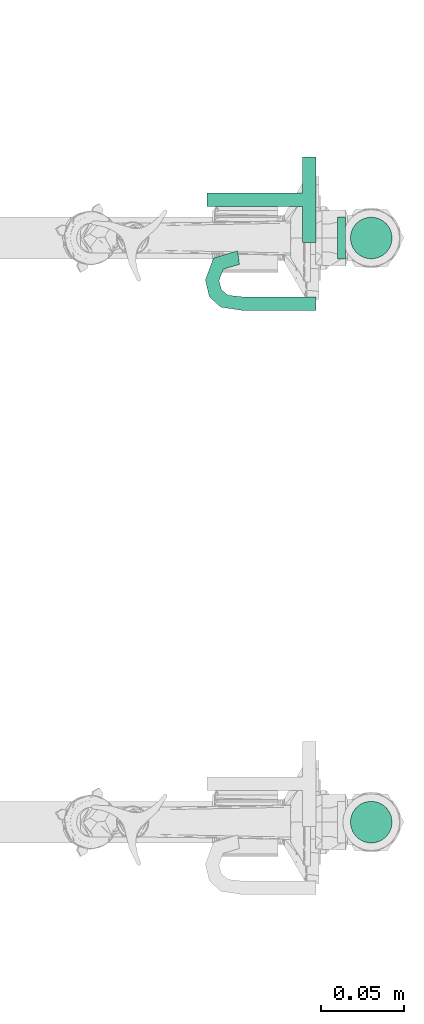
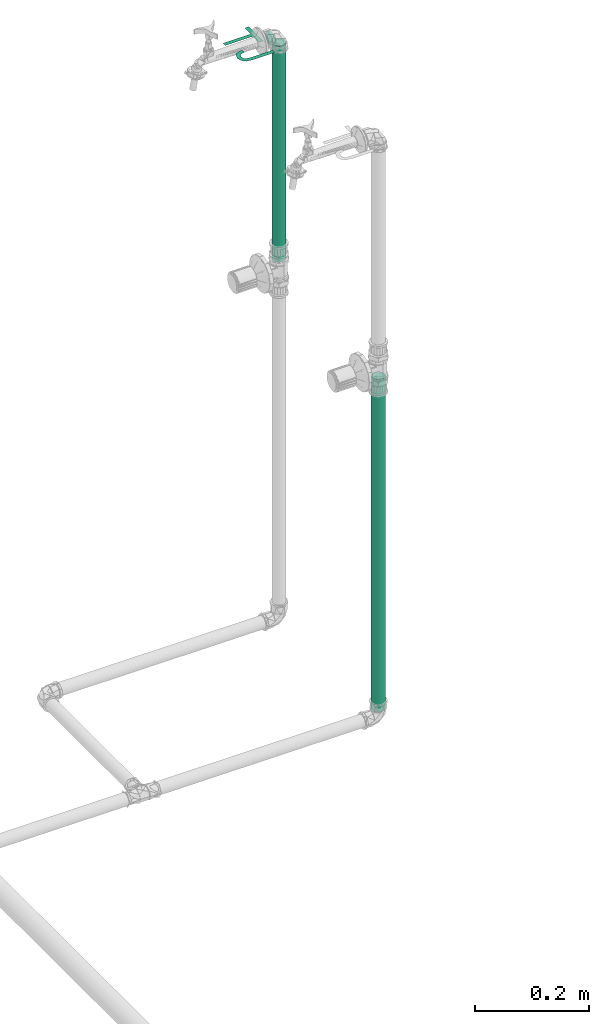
# One storey, part 301 of 589: 2 flow segments, 1 flow terminal.
"""IFC2X3 building model written with IfcOpenShell, lengths in millimetres."""

from ifc_helpers import new_model, entity, si_unit, converted_unit, derived_unit, direction, frame, frame_2d, origin, origin_2d_with_axis, place, context, subcontext, project, spatial, circle, extrude, face_set, surface_model, source, transform, mapped, material, type_object, type_shapes, element, save


model = new_model("IFC2X3")

# Units and contexts
model_context = context("Model", 3, precision=0.01, world=origin(), true_north=direction((6.123031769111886e-17, 1.0)))
body_context = subcontext(model_context, "Body", "Model", "MODEL_VIEW")
ifc_project = project(units=[si_unit("LENGTHUNIT", "METRE", prefix="MILLI"), si_unit("AREAUNIT", "SQUARE_METRE"), si_unit("VOLUMEUNIT", "CUBIC_METRE"), converted_unit("PLANEANGLEUNIT", "DEGREE", entity("IfcRatioMeasure", 0.017453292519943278), si_unit("PLANEANGLEUNIT", "RADIAN"), dimensions=[0, 0, 0, 0, 0, 0, 0]), si_unit("MASSUNIT", "GRAM", prefix="KILO"), derived_unit("MASSDENSITYUNIT", [(si_unit("MASSUNIT", "GRAM", prefix="KILO"), 1), (si_unit("LENGTHUNIT", "METRE"), -3)]), derived_unit("IONCONCENTRATIONUNIT", [(si_unit("MASSUNIT", "GRAM", prefix="KILO"), 1), (si_unit("LENGTHUNIT", "METRE"), -3)]), derived_unit("MOMENTOFINERTIAUNIT", [(si_unit("LENGTHUNIT", "METRE"), 4)]), si_unit("TIMEUNIT", "SECOND"), si_unit("FREQUENCYUNIT", "HERTZ"), si_unit("THERMODYNAMICTEMPERATUREUNIT", "DEGREE_CELSIUS"), derived_unit("THERMALTRANSMITTANCEUNIT", [(si_unit("MASSUNIT", "GRAM", prefix="KILO"), 1), (si_unit("THERMODYNAMICTEMPERATUREUNIT", "KELVIN"), -1), (si_unit("TIMEUNIT", "SECOND"), -3)]), derived_unit("THERMALCONDUCTANCEUNIT", [(si_unit("MASSUNIT", "GRAM", prefix="KILO"), 1), (si_unit("THERMODYNAMICTEMPERATUREUNIT", "KELVIN"), -1), (si_unit("TIMEUNIT", "SECOND"), -3), (si_unit("LENGTHUNIT", "METRE"), 1)]), derived_unit("VOLUMETRICFLOWRATEUNIT", [(si_unit("LENGTHUNIT", "METRE"), 3), (si_unit("TIMEUNIT", "SECOND"), -1)]), derived_unit("MASSFLOWRATEUNIT", [(si_unit("MASSUNIT", "GRAM", prefix="KILO"), 1), (si_unit("TIMEUNIT", "SECOND"), -1)]), derived_unit("ROTATIONALFREQUENCYUNIT", [(si_unit("TIMEUNIT", "SECOND"), -1)]), si_unit("ELECTRICCURRENTUNIT", "AMPERE"), si_unit("ELECTRICVOLTAGEUNIT", "VOLT"), si_unit("POWERUNIT", "WATT"), si_unit("FORCEUNIT", "NEWTON", prefix="KILO"), si_unit("ILLUMINANCEUNIT", "LUX"), si_unit("LUMINOUSFLUXUNIT", "LUMEN"), si_unit("LUMINOUSINTENSITYUNIT", "CANDELA"), derived_unit("USERDEFINED", [(si_unit("MASSUNIT", "GRAM", prefix="KILO"), -1), (si_unit("LENGTHUNIT", "METRE"), -2), (si_unit("TIMEUNIT", "SECOND"), 3), (si_unit("LUMINOUSFLUXUNIT", "LUMEN"), 1)]), derived_unit("USERDEFINED", [(si_unit("MASSUNIT", "GRAM", prefix="KILO"), 1), (si_unit("TIMEUNIT", "SECOND"), -3), (si_unit("LENGTHUNIT", "METRE"), 3), (si_unit("ELECTRICCURRENTUNIT", "AMPERE"), -2)]), derived_unit("SOUNDPOWERUNIT", [(si_unit("MASSUNIT", "GRAM", prefix="KILO"), 1), (si_unit("TIMEUNIT", "SECOND"), -3), (si_unit("LENGTHUNIT", "METRE"), 2)]), derived_unit("SOUNDPRESSUREUNIT", [(si_unit("MASSUNIT", "GRAM", prefix="KILO"), 1), (si_unit("LENGTHUNIT", "METRE"), -1), (si_unit("TIMEUNIT", "SECOND"), -2)]), derived_unit("LINEARVELOCITYUNIT", [(si_unit("LENGTHUNIT", "METRE"), 1), (si_unit("TIMEUNIT", "SECOND"), -1)]), si_unit("PRESSUREUNIT", "PASCAL"), derived_unit("USERDEFINED", [(si_unit("MASSUNIT", "GRAM", prefix="KILO"), 1), (si_unit("LENGTHUNIT", "METRE"), -2), (si_unit("TIMEUNIT", "SECOND"), -2)]), derived_unit("LINEARFORCEUNIT", [(si_unit("MASSUNIT", "GRAM", prefix="KILO"), 1), (si_unit("TIMEUNIT", "SECOND"), -2)]), derived_unit("PLANARFORCEUNIT", [(si_unit("MASSUNIT", "GRAM", prefix="KILO"), 1), (si_unit("LENGTHUNIT", "METRE"), -1), (si_unit("TIMEUNIT", "SECOND"), -2)]), derived_unit("SPECIFICHEATCAPACITYUNIT", [(si_unit("THERMODYNAMICTEMPERATUREUNIT", "KELVIN"), -1), (si_unit("LENGTHUNIT", "METRE"), 2), (si_unit("TIMEUNIT", "SECOND"), -2)]), derived_unit("HEATINGVALUEUNIT", [(si_unit("LENGTHUNIT", "METRE"), 2), (si_unit("TIMEUNIT", "SECOND"), -2)]), derived_unit("VAPORPERMEABILITYUNIT", [(si_unit("LENGTHUNIT", "METRE"), -1), (si_unit("TIMEUNIT", "SECOND"), 1)]), derived_unit("DYNAMICVISCOSITYUNIT", [(si_unit("MASSUNIT", "GRAM", prefix="KILO"), 1), (si_unit("TIMEUNIT", "SECOND"), -1), (si_unit("LENGTHUNIT", "METRE"), -1)]), derived_unit("THERMALEXPANSIONCOEFFICIENTUNIT", [(si_unit("THERMODYNAMICTEMPERATUREUNIT", "KELVIN"), -1)]), derived_unit("MODULUSOFELASTICITYUNIT", [(si_unit("MASSUNIT", "GRAM", prefix="KILO"), 1), (si_unit("LENGTHUNIT", "METRE"), -1), (si_unit("TIMEUNIT", "SECOND"), -2)]), derived_unit("ISOTHERMALMOISTURECAPACITYUNIT", [(si_unit("LENGTHUNIT", "METRE"), 3), (si_unit("MASSUNIT", "GRAM", prefix="KILO"), -1)]), derived_unit("MOISTUREDIFFUSIVITYUNIT", [(si_unit("TIMEUNIT", "SECOND"), -1), (si_unit("LENGTHUNIT", "METRE"), 2)])], contexts=[model_context])

# Site, building, storey
site_placement = place(None, origin())
site = spatial("IfcSite", under=ifc_project, at=site_placement, Name="Default", CompositionType="ELEMENT")
building_placement = place(site_placement, origin())
building = spatial("IfcBuilding", under=site, at=building_placement, CompositionType="ELEMENT")
storey_placement = place(building_placement, frame((0.0, 0.0, 100.0)))
storey = spatial("IfcBuildingStorey", under=building, at=storey_placement, Name="TÉRREO", CompositionType="ELEMENT", Elevation=100.0)

# Flow segments
pipe_segment_type = type_object("IfcPipeSegmentType", Name="Tipos de tubos:PVC Marrom Soldável", PredefinedType="NOTDEFINED")
flow_segment_1_placement = place(storey_placement, origin())
element("IfcFlowSegment", 1, at=flow_segment_1_placement, inside=storey, type_object=pipe_segment_type, Name="Tipos de tubos:PVC Marrom Soldável", ObjectType="Tipos de tubos:PVC Marrom Soldável", context=body_context, shape_type="SweptSolid", body=[
    extrude(circle(Radius=12.5, at=frame_2d((0.0, 1.0828671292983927e-12), x_axis=(1.0, 0.0))), frame((22167.427950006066, 6394.222132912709, 520.0)), (0.0, 0.0, 1.0), 464.70000000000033),
])
flow_segment_2_placement = place(storey_placement, origin())
element("IfcFlowSegment", 2, at=flow_segment_2_placement, inside=storey, type_object=pipe_segment_type, Name="Tipos de tubos:PVC Marrom Soldável", ObjectType="Tipos de tubos:PVC Marrom Soldável", context=body_context, shape_type="SweptSolid", body=[
    extrude(circle(Radius=12.5, at=origin_2d_with_axis()), frame((22167.427950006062, 6044.222132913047, -234.6)), (0.0, 0.0, 1.0), 714.6),
])

# Flow terminal
ifc_material = material(Name="<Unnamed>")
distribution_element_type = type_object("IfcDistributionElementType", Name="Hidráulica_Ponto de Utilização_Uso Provável_Rodrigo MEP:Torneira de Jardim TJ (Peso 0,4) 0,5m do Piso", material=ifc_material)
shared_shape = source(origin(), body_context, "Body", "SurfaceModel", [
    surface_model("IfcFaceBasedSurfaceModel", [(21.42544739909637, 1.0202593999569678, 14.095272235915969), (29.58752259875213, 1.0202593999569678, 14.095272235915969), (29.58752259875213, 58.1547857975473, 14.095272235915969), (51.01296999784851, 58.1547857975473, 14.095272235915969), (51.01296999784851, 66.31686099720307, 14.095272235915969), (0.0, 66.31686099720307, 14.095272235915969), (0.0, 58.1547857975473, 14.095272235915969), (21.42544739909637, 58.1547857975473, 14.095272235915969), (56.11426699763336, 19.353045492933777, 14.095272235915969), (60.48225255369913, 4.870144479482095, 14.095272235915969), (73.57026766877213, 0.0, 14.095272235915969), (83.6054753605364, 2.3593498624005, 14.095272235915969), (89.85456418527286, 9.20624692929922, 14.095272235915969), (91.8233459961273, 21.88775243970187, 14.095272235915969), (91.8233459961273, 66.31686099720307, 14.095272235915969), (83.66127079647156, 66.31686099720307, 14.095272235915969), (83.66127079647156, 21.744278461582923, 14.095272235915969), (82.77651459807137, 13.653940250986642, 14.095272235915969), (79.54037931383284, 9.636668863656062, 14.095272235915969), (73.952864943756, 8.162075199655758, 14.095272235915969), (67.06611399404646, 10.760548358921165, 14.095272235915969), (64.27634219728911, 20.405187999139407, 14.095272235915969), (35.96232149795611, 79.08730098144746, 14.095272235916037), (36.38824866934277, 79.08730098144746, 17.330510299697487), (37.637003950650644, 79.08730098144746, 20.345272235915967), (39.623486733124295, 79.08730098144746, 22.934107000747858), (42.21232149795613, 79.08730098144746, 24.92058978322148), (45.22708343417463, 79.08730098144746, 26.16934506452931), (48.46232149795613, 79.08730098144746, 26.59527223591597), (51.69755956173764, 79.08730098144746, 26.16934506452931), (54.712321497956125, 79.08730098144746, 24.92058978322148), (57.30115626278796, 79.08730098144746, 22.93410700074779), (59.2876390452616, 79.08730098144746, 20.345272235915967), (60.53639432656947, 79.08730098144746, 17.330510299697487), (60.96232149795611, 79.08730098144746, 14.0952722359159), (60.53639432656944, 79.08730098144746, 10.860034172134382), (59.28763904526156, 79.08730098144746, 7.845272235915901), (57.30115626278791, 79.08730098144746, 5.256437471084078), (54.712321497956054, 79.08730098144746, 3.269954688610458), (51.69755956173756, 79.08730098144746, 2.0211994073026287), (48.462321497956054, 79.08730098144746, 1.5952722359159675), (45.22708343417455, 79.08730098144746, 2.0211994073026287), (42.21232149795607, 79.08730098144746, 3.2699546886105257), (39.62348673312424, 79.08730098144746, 5.256437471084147), (37.6370039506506, 79.08730098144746, 7.845272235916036), (36.38824866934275, 79.08730098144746, 10.860034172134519), (35.96232149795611, 84.0873009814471, 14.095272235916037), (36.38824866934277, 84.0873009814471, 17.330510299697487), (37.637003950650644, 84.0873009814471, 20.345272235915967), (39.623486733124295, 84.0873009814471, 22.934107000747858), (42.21232149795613, 84.0873009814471, 24.92058978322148), (45.22708343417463, 84.0873009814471, 26.16934506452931), (48.46232149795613, 84.0873009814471, 26.59527223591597), (51.69755956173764, 84.0873009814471, 26.16934506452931), (54.712321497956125, 84.0873009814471, 24.92058978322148), (57.30115626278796, 84.0873009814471, 22.93410700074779), (59.2876390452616, 84.0873009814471, 20.345272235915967), (60.53639432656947, 84.0873009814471, 17.330510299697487), (60.96232149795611, 84.0873009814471, 14.095272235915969), (60.53639432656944, 84.0873009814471, 10.860034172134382), (59.28763904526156, 84.0873009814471, 7.845272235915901), (57.30115626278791, 84.0873009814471, 5.256437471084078), (54.712321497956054, 84.0873009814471, 3.269954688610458), (51.69755956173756, 84.0873009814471, 2.0211994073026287), (48.462321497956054, 84.0873009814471, 1.5952722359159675), (45.22708343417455, 84.0873009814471, 2.0211994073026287), (42.21232149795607, 84.0873009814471, 3.2699546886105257), (39.62348673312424, 84.0873009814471, 5.256437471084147), (37.6370039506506, 84.0873009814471, 7.845272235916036), (36.38824866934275, 84.0873009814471, 10.860034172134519)], [face_set([[[0, 1, 2, 3, 4, 5, 6, 7]], [[8, 9, 10, 11, 12, 13, 14, 15, 16, 17, 18, 19, 20, 21]]]), face_set([[[22, 23, 24, 25, 26, 27, 28, 29, 30, 31, 32, 33, 34, 35, 36, 37, 38, 39, 40, 41, 42, 43, 44, 45]], [[46, 47, 48, 49, 50, 51, 52, 53, 54, 55, 56, 57, 58, 59, 60, 61, 62, 63, 64, 65, 66, 67, 68, 69]], [[46, 69, 45, 22]], [[69, 68, 44, 45]], [[67, 66, 42, 43]], [[68, 67, 43, 44]], [[66, 65, 41, 42]], [[40, 41, 65, 64]], [[64, 63, 39, 40]], [[63, 62, 38, 39]], [[61, 60, 36, 37]], [[62, 61, 37, 38]], [[60, 59, 35, 36]], [[34, 35, 59, 58]], [[58, 57, 33, 34]], [[57, 56, 32, 33]], [[55, 54, 30, 31]], [[56, 55, 31, 32]], [[54, 53, 29, 30]], [[28, 29, 53, 52]], [[52, 51, 27, 28]], [[51, 50, 26, 27]], [[49, 48, 24, 25]], [[50, 49, 25, 26]], [[48, 47, 23, 24]], [[22, 23, 47, 46]]])]),
])
type_shapes(distribution_element_type, [shared_shape])
flow_terminal_placement = place(storey_placement, frame((22068.04064902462, 6442.684454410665, 985.904727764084), z_axis=(0.0, 0.0, 1.0), x_axis=(0.0, -1.0, 0.0)))
element("IfcFlowTerminal", 3, at=flow_terminal_placement, inside=storey, type_object=distribution_element_type, material=ifc_material, Name="Hidráulica_Ponto de Utilização_Uso Provável_Rodrigo MEP:Torneira de Jardim TJ (Peso 0,4) 0,5m do Piso", ObjectType="Hidráulica_Ponto de Utilização_Uso Provável_Rodrigo MEP:Torneira de Jardim TJ (Peso 0,4) 0,5m do Piso", context=body_context, shape_type="MappedRepresentation", body=[
    mapped(shared_shape, transform((0.0, 0.0, 0.0), scale=1.0)),
])

save(model, "model.ifc")
